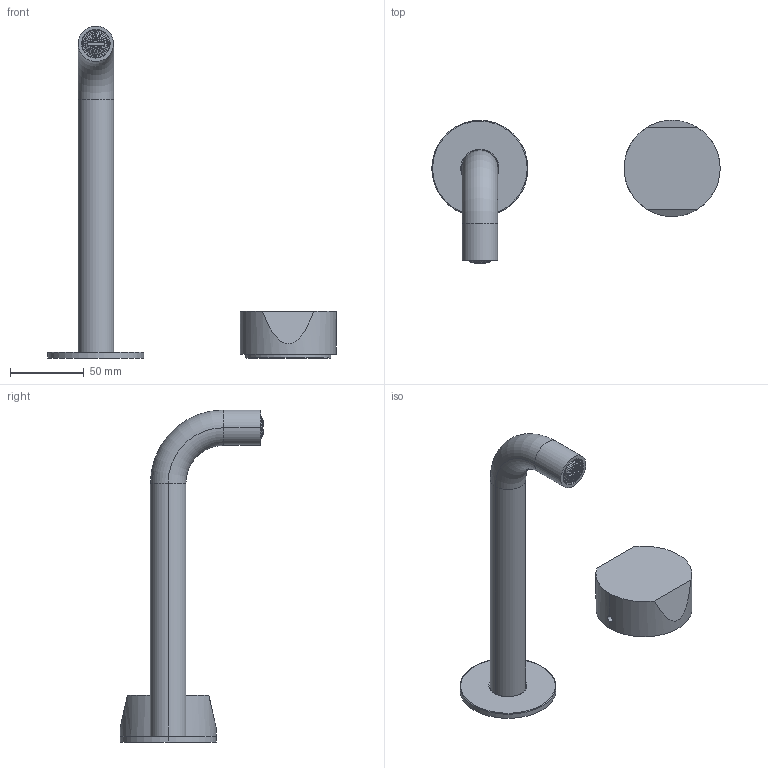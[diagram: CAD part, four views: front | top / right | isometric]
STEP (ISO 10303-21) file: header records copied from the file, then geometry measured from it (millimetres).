
FILE_DESCRIPTION((''),'2;1');
FILE_NAME('27020A713B000CX0_SW0001','2024-05-31T09:34:10',('matteo.follador'),(''),'CREO PARAMETRIC BY PTC INC, 2022424','CREO PARAMETRIC BY PTC INC, 2022424','');
FILE_SCHEMA(('AUTOMOTIVE_DESIGN { 1 0 10303 214 1 1 1 1 }'));
Length unit declared in the file: millimetre
Products named in the file (1): 27020A713B000CX0_SW0001
Bounding box: 195 x 97.27 x 224.5 mm (x, y, z)
Volume: 206788.1 mm3; surface area: 47989.7 mm2
Topology: 2 solids, 4 shells, 332 faces, 854 edges, 560 vertices
Faces by surface type: plane 253, cylinder 47, torus 18, cone 10, sphere 4
Entity records: 11504 total; most frequent: CARTESIAN_POINT 2502, DIRECTION 1882, ORIENTED_EDGE 1704, EDGE_CURVE 852, AXIS2_PLACEMENT_3D 698, VERTEX_POINT 560, VECTOR 483, LINE 483
